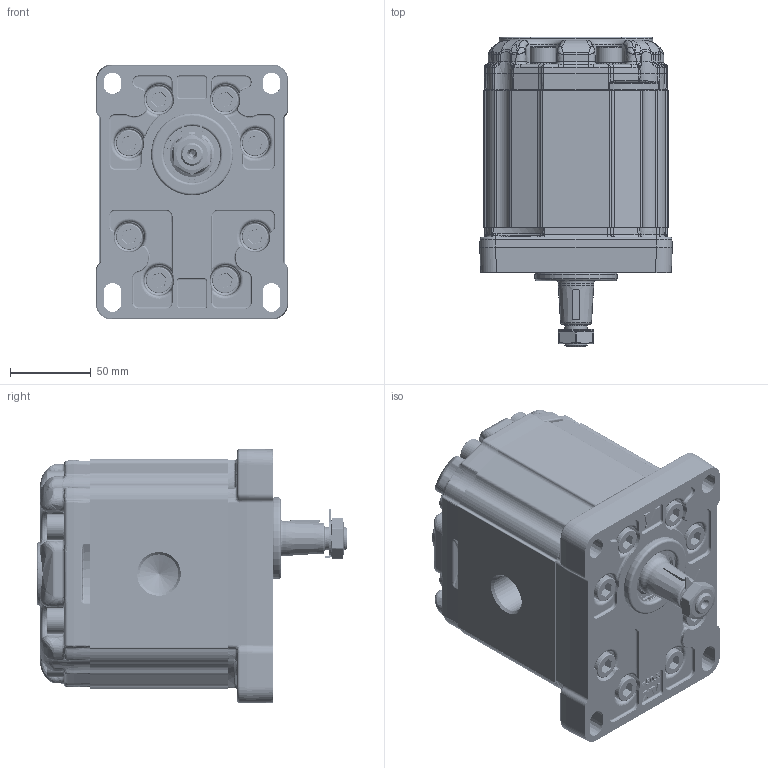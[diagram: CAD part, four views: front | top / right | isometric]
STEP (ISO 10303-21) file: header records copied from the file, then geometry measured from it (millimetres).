
FILE_DESCRIPTION(/* description */ ('Unknown'),/* implementation_level */ '2;1');
FILE_NAME(/* name */ 'X3P7801AEDA',/* time_stamp */ '2023-09-08T14:38:40+02:00',/* author */ ('Unknown'),/* organization */ ('Unknown'),/* preprocessor_version */ 'ST-DEVELOPER v16.7',/* originating_system */ 'Solid Edge',/* authorisation */ 'Unknown');
FILE_SCHEMA (('AUTOMOTIVE_DESIGN {1 0 10303 214 3 1 1}'));
Products named in the file (5): X3P7801AEDA; X3P01; 3A; X3EDH85; XP301-A
Assembly tree (4 placements, depth 2):
  X3P7801AEDA
    X3P01
    3A
    X3EDH85
    XP301-A
Bounding box: 119.2 x 192 x 157.8 mm (x, y, z)
Volume: 2078850.1 mm3; surface area: 220605.4 mm2
Topology: 4 solids, 5 shells, 4574 faces, 14022 edges, 8764 vertices
Faces by surface type: cylinder 1835, plane 1392, bspline 997, torus 200, cone 137, sphere 13
Full cylindrical faces by diameter (mm): 2 x2, 10 x16, 10.35 x30, 10.5 x1, 14 x2, 15.8 x16, 16 x16, 22 x1, 24.117 x2, 24.98 x1, 25 x2, 25.968 x1, 28.16 x1, 30.291 x1, 31 x1, 31.293 x1, 32.742 x1, 34.956 x1, 35 x1, 35.2 x1, 37 x1, 50.8 x1
Entity records: 310275 total; most frequent: CARTESIAN_POINT 163734, ORIENTED_EDGE 27126, DIRECTION 20341, EDGE_CURVE 13563, VERTEX_POINT 8627, AXIS2_PLACEMENT_3D 7741, FACE_BOUND 5022, EDGE_LOOP 5018
